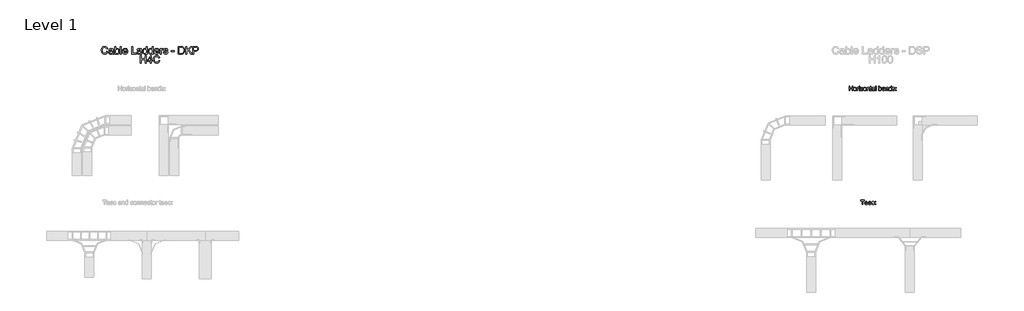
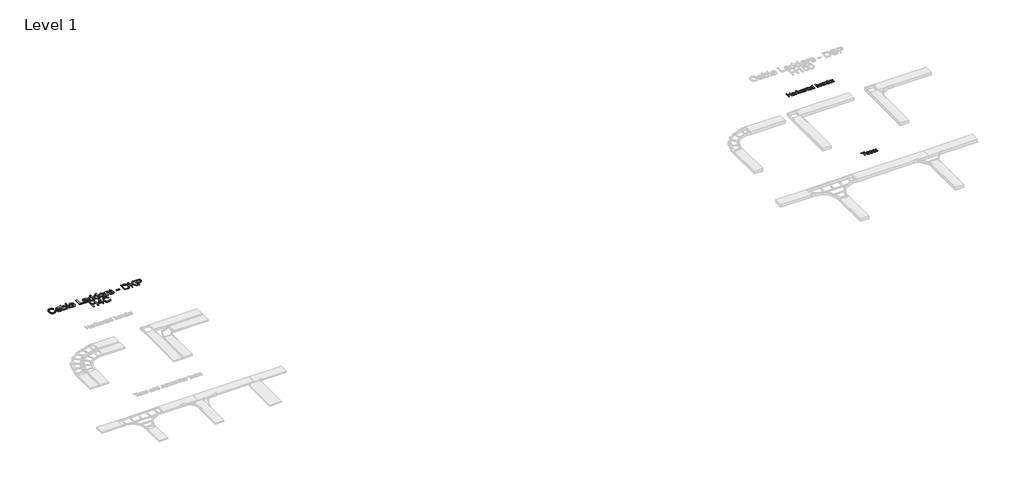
# One storey, part 85 of 106: 3 proxies.
"""IFC4 building model written with IfcOpenShell, lengths in millimetres."""

from ifc_helpers import new_model, si_unit, origin, origin_with_axes, place, context, project, spatial, polyline, outline, extrude, element, save

model = new_model("IFC4")

# Units and contexts
model_context = context("Model", 3, world=origin())
ifc_project = project(units=[si_unit("LENGTHUNIT", "METRE", prefix="MILLI")], contexts=[model_context])

# Site, building, storey
site = spatial("IfcSite", under=ifc_project)
building = spatial("IfcBuilding", under=site)
storey = spatial("IfcBuildingStorey", under=building, Name="Level 1", Elevation=0.0)

# Proxies
placement = place(None, origin())
element("IfcBuildingElementProxy", 1, Name="150mm Arial 2", ObjectType="150mm Arial 2", at=placement, inside=storey, context=model_context, shape_type="SweptSolid", body=[
    extrude(outline(polyline([(79665.8833156, 70274.2713912), (79665.8833156, 70424.9558564), (79684.7188737, 70424.9558564), (79684.7188737, 70363.7402924), (79764.7699959, 70363.7402924), (79764.7699959, 70424.9558564), (79783.605554, 70424.9558564), (79783.605554, 70274.2713912), (79764.7699959, 70274.2713912), (79764.7699959, 70344.9047343), (79684.7188737, 70344.9047343), (79684.7188737, 70274.2713912), (79665.8833156, 70274.2713912)])), origin_with_axes(), (0.0, 0.0, 1.0), 15.0),
    extrude(outline(polyline([(79809.5044465, 70329.6008433), (79813.5787396, 70356.281485), (79825.8016189, 70375.0342697), (79840.9031748, 70384.2221225), (79858.9845748, 70387.2847401), (79878.7720277, 70383.5553364), (79894.5771579, 70372.3671252), (79904.9376346, 70354.6030234), (79908.3911268, 70331.1459476), (79906.8644165, 70312.1172514), (79902.2842857, 70297.6318979), (79894.7840915, 70286.7839775), (79884.4971912, 70278.667581), (79872.2789104, 70273.6046051), (79858.9845748, 70271.9169464), (79838.9579987, 70275.6325546), (79823.1712626, 70286.779379), (79812.9211505, 70304.9159614), (79809.5044465, 70329.6008433)]), holes=[polyline([(79828.3400046, 70329.6376315), (79830.5197055, 70312.5908995), (79837.0588079, 70300.4461951), (79846.8996513, 70293.1759272), (79858.9845748, 70290.7525046), (79871.0143161, 70293.1897228), (79880.8367654, 70300.5013774), (79887.3758678, 70312.8070302), (79889.5555686, 70330.2262427), (79887.3620722, 70346.7763339), (79880.7815831, 70358.7554914), (79870.9453382, 70366.0257593), (79858.9845748, 70368.449182), (79846.8996513, 70366.0349564), (79837.0588079, 70358.7922796), (79830.5197055, 70346.6751664), (79828.3400046, 70329.6376315)])]), origin_with_axes(), (0.0, 0.0, 1.0), 15.0),
    extrude(outline(polyline([(79929.5811297, 70274.2713912), (79929.5811297, 70384.9302953), (79946.0622431, 70384.9302953), (79946.0622431, 70368.5595466), (79957.7608906, 70383.6427084), (79969.5331144, 70387.2847401), (79988.4422489, 70381.4722046), (79982.1514668, 70364.586421), (79968.907715, 70368.449182), (79958.2575312, 70364.7335738), (79951.4701084, 70354.4328779), (79948.4166879, 70332.4335346), (79948.4166879, 70274.2713912), (79929.5811297, 70274.2713912)])), origin_with_axes(), (0.0, 0.0, 1.0), 15.0),
    extrude(outline(polyline([(80000.2144728, 70406.1202983), (80000.2144728, 70424.9558564), (80019.0500309, 70424.9558564), (80019.0500309, 70406.1202983), (80000.2144728, 70406.1202983)])), origin_with_axes(), (0.0, 0.0, 1.0), 15.0),
    extrude(outline(polyline([(80000.2144728, 70274.2713912), (80000.2144728, 70384.9302953), (80019.0500309, 70384.9302953), (80019.0500309, 70274.2713912), (80000.2144728, 70274.2713912)])), origin_with_axes(), (0.0, 0.0, 1.0), 15.0),
    extrude(outline(polyline([(80035.5311443, 70274.2713912), (80035.5311443, 70292.0033034), (80100.5358929, 70366.0947372), (80081.2956645, 70366.0947372), (80040.2400339, 70366.0947372), (80040.2400339, 70384.9302953), (80127.3544903, 70384.9302953), (80127.3544903, 70368.9274285), (80069.7073817, 70303.186916), (80060.8782138, 70293.1069493), (80082.6568279, 70293.1069493), (80129.7089351, 70293.1069493), (80129.7089351, 70274.2713912), (80035.5311443, 70274.2713912)])), origin_with_axes(), (0.0, 0.0, 1.0), 15.0),
    extrude(outline(polyline([(80143.8356037, 70329.6008433), (80147.9098968, 70356.281485), (80160.1327761, 70375.0342697), (80175.234332, 70384.2221225), (80193.3157321, 70387.2847401), (80213.1031849, 70383.5553364), (80228.9083151, 70372.3671252), (80239.2687918, 70354.6030234), (80242.722284, 70331.1459476), (80241.1955737, 70312.1172514), (80236.6154429, 70297.6318979), (80229.1152487, 70286.7839775), (80218.8283484, 70278.667581), (80206.6100677, 70273.6046051), (80193.3157321, 70271.9169464), (80173.2891559, 70275.6325546), (80157.5024198, 70286.779379), (80147.2523077, 70304.9159614), (80143.8356037, 70329.6008433)]), holes=[polyline([(80162.6711619, 70329.6376315), (80164.8508627, 70312.5908995), (80171.3899651, 70300.4461951), (80181.2308085, 70293.1759272), (80193.3157321, 70290.7525046), (80205.3454733, 70293.1897228), (80215.1679226, 70300.5013774), (80221.707025, 70312.8070302), (80223.8867259, 70330.2262427), (80221.6932295, 70346.7763339), (80215.1127403, 70358.7554914), (80205.2764954, 70366.0257593), (80193.3157321, 70368.449182), (80181.2308085, 70366.0349564), (80171.3899651, 70358.7922796), (80164.8508627, 70346.6751664), (80162.6711619, 70329.6376315)])]), origin_with_axes(), (0.0, 0.0, 1.0), 15.0),
    extrude(outline(polyline([(80263.9122869, 70274.2713912), (80263.9122869, 70384.9302953), (80282.7478451, 70384.9302953), (80282.7478451, 70369.4792515), (80297.1504252, 70382.833368), (80316.8137178, 70387.2847401), (80334.6008123, 70383.6978907), (80346.7409182, 70374.2801116), (80352.3879068, 70360.4293545), (80353.3811882, 70342.2191957), (80353.3811882, 70274.2713912), (80334.54563, 70274.2713912), (80334.54563, 70339.6808099), (80332.3751262, 70356.3458643), (80324.7047866, 70365.1566381), (80311.7737345, 70368.449182), (80300.7418732, 70366.6005749), (80291.3378897, 70361.0547538), (80284.8953562, 70350.3401907), (80282.7478451, 70332.9853576), (80282.7478451, 70274.2713912), (80263.9122869, 70274.2713912)])), origin_with_axes(), (0.0, 0.0, 1.0), 15.0),
    extrude(outline(polyline([(80419.3056417, 70289.9799524), (80421.6600865, 70273.7195682), (80407.5702061, 70271.9169464), (80391.7880685, 70275.0439434), (80383.9153938, 70283.2477119), (80381.6345254, 70304.6216558), (80381.6345254, 70366.0947372), (80367.5078568, 70366.0947372), (80367.5078568, 70384.9302953), (80381.6345254, 70384.9302953), (80381.6345254, 70411.8224692), (80400.4700835, 70422.8957172), (80400.4700835, 70384.9302953), (80419.3056417, 70384.9302953), (80419.3056417, 70366.0947372), (80400.4700835, 70366.0947372), (80400.4700835, 70305.1734788), (80401.4633649, 70295.4613941), (80404.6823324, 70292.0216975), (80411.1018732, 70290.7525046), (80419.3056417, 70289.9799524)])), origin_with_axes(), (0.0, 0.0, 1.0), 15.0),
    extrude(outline(polyline([(80508.7745429, 70288.3980598), (80490.5092019, 70275.6325546), (80470.3308744, 70271.9169464), (80454.5901236, 70274.1518295), (80442.9788481, 70280.8564789), (80435.8189448, 70291.0376131), (80433.4323103, 70303.7019508), (80437.0375539, 70318.6011716), (80446.5105152, 70329.4169023), (80459.6990848, 70335.5973198), (80475.9962572, 70338.4300111), (80508.6641783, 70344.9047343), (80508.7745429, 70349.098589), (80507.4777589, 70357.5046926), (80503.5874068, 70363.0045284), (80494.8869976, 70367.0880186), (80482.7652859, 70368.449182), (80463.7089985, 70364.8255443), (80454.6223132, 70351.9680686), (80435.7867551, 70354.3225133), (80443.9353413, 70372.7166131), (80460.3428783, 70383.4955556), (80485.193307, 70387.2847401), (80508.0203848, 70383.9370139), (80520.9146488, 70375.5309104), (80526.6903961, 70362.747011), (80527.6101011, 70346.2658976), (80527.6101011, 70322.8318145), (80528.5665943, 70290.1087111), (80532.3189906, 70274.2713912), (80513.4834325, 70274.2713912), (80508.7745429, 70288.3980598)]), holes=[polyline([(80508.7745429, 70326.0691761), (80478.3874901, 70320.2934288), (80462.1822882, 70317.2400082), (80454.8430424, 70312.2736013), (80452.2678685, 70305.026326), (80457.8780689, 70294.8359947), (80474.3407882, 70290.7525046), (80493.3970755, 70295.259059), (80505.6843342, 70306.1667602), (80508.6641783, 70320.7348872), (80508.7745429, 70326.0691761)])]), origin_with_axes(), (0.0, 0.0, 1.0), 15.0),
    extrude(outline(polyline([(80553.5089935, 70274.2713912), (80553.5089935, 70424.9558564), (80572.3445517, 70424.9558564), (80572.3445517, 70274.2713912), (80553.5089935, 70274.2713912)])), origin_with_axes(), (0.0, 0.0, 1.0), 15.0),
    extrude(outline(polyline([(80678.2945663, 70274.2713912), (80659.4590082, 70274.2713912), (80659.4590082, 70424.9558564), (80678.2945663, 70424.9558564), (80678.2945663, 70369.0745813), (80691.4831358, 70382.7322004), (80707.8722787, 70387.2847401), (80726.7446251, 70383.1828559), (80741.3863285, 70371.6497553), (80750.3810433, 70353.715508), (80753.6367989, 70331.2563122), (80750.2660801, 70306.1115779), (80740.1539238, 70287.4047784), (80725.3144838, 70275.7889044), (80707.7619141, 70271.9169464), (80691.0140863, 70276.9109445), (80678.2945663, 70291.8929388), (80678.2945663, 70274.2713912)]), holes=[polyline([(80678.2945663, 70330.3733955), (80679.5821533, 70314.6648343), (80683.4449142, 70304.0330446), (80693.3133488, 70294.0726396), (80706.1432333, 70290.7525046), (80717.0141463, 70293.1989198), (80726.3031667, 70300.5381656), (80732.6767222, 70312.7242567), (80734.8012408, 70329.7112079), (80732.7640942, 70346.9464793), (80726.6526546, 70358.9946147), (80717.6533413, 70366.0855401), (80706.9525737, 70368.449182), (80696.0816608, 70366.0027667), (80686.7926404, 70358.6635209), (80680.4190848, 70346.698159), (80678.2945663, 70330.3733955)])]), origin_with_axes(), (0.0, 0.0, 1.0), 15.0),
    extrude(outline(polyline([(80852.30275, 70307.233618), (80870.7704262, 70304.8791732), (80864.1163606, 70290.9640367), (80853.4983665, 70280.5621733), (80839.1555672, 70274.0782531), (80821.327086, 70271.9169464), (80799.2265752, 70275.6463501), (80782.2212299, 70286.8345613), (80771.3779081, 70304.755013), (80767.7634675, 70328.6811383), (80771.4146963, 70353.4120054), (80782.3683827, 70371.9072727), (80799.1438017, 70383.4403733), (80820.2602282, 70387.2847401), (80840.7190657, 70383.4495703), (80857.0668219, 70371.9440609), (80867.7859835, 70353.4855818), (80871.3590374, 70328.7915029), (80871.2486728, 70323.7147313), (80786.5990257, 70323.7147313), (80789.8593799, 70309.6156539), (80797.4331504, 70299.2505787), (80808.3638442, 70292.8770231), (80821.694968, 70290.7525046), (80840.1626442, 70294.6888419), (80852.30275, 70307.233618)]), holes=[polyline([(80786.5990257, 70342.5502895), (80852.5234792, 70342.5502895), (80849.9758964, 70352.5014975), (80844.9818983, 70359.6200141), (80834.0006208, 70366.24189), (80820.1866518, 70368.449182), (80807.4901245, 70366.6879469), (80796.991692, 70361.4042417), (80789.693833, 70353.1682836), (80786.5990257, 70342.5502895)])]), origin_with_axes(), (0.0, 0.0, 1.0), 15.0),
    extrude(outline(polyline([(80890.1945955, 70274.2713912), (80890.1945955, 70384.9302953), (80909.0301537, 70384.9302953), (80909.0301537, 70369.4792515), (80923.4327338, 70382.833368), (80943.0960264, 70387.2847401), (80960.8831209, 70383.6978907), (80973.0232267, 70374.2801116), (80978.6702154, 70360.4293545), (80979.6634968, 70342.2191957), (80979.6634968, 70274.2713912), (80960.8279386, 70274.2713912), (80960.8279386, 70339.6808099), (80958.6574348, 70356.3458643), (80950.9870952, 70365.1566381), (80938.0560431, 70368.449182), (80927.0241818, 70366.6005749), (80917.6201983, 70361.0547538), (80911.1776648, 70350.3401907), (80909.0301537, 70332.9853576), (80909.0301537, 70274.2713912), (80890.1945955, 70274.2713912)])), origin_with_axes(), (0.0, 0.0, 1.0), 15.0),
    extrude(outline(polyline([(81073.8412875, 70274.2713912), (81073.8412875, 70292.0400916), (81061.3792849, 70276.9477327), (81044.1532105, 70271.9169464), (81031.9763165, 70273.7379623), (81020.829492, 70279.2010099), (81011.3933188, 70287.9244117), (81004.3483786, 70299.5264902), (80999.9613858, 70313.5381956), (80998.4990549, 70329.4904787), (81003.8885261, 70359.4728613), (81010.6207666, 70371.3646468), (81020.0385457, 70380.1110412), (81031.429092, 70385.4913154), (81044.0796341, 70387.2847401), (81061.4436643, 70382.1527863), (81073.8412875, 70368.8170639), (81073.8412875, 70424.9558564), (81092.6768457, 70424.9558564), (81092.6768457, 70274.2713912), (81073.8412875, 70274.2713912)]), holes=[polyline([(81017.3346131, 70329.5640551), (81019.4591316, 70312.5265202), (81025.8326871, 70300.4094069), (81035.0941164, 70293.1667302), (81045.8822559, 70290.7525046), (81056.6657969, 70293.0563656), (81065.6927013, 70299.9679485), (81071.804141, 70311.6160122), (81073.8412875, 70328.1293153), (81071.7673528, 70346.1831242), (81065.5455485, 70358.7003091), (81056.2887178, 70366.0119637), (81045.1097037, 70368.449182), (81034.2111996, 70366.1085328), (81025.2808642, 70359.0865852), (81019.3211758, 70347.0246543), (81017.3346131, 70329.5640551)])]), origin_with_axes(), (0.0, 0.0, 1.0), 15.0),
    extrude(outline(polyline([(81113.8668486, 70307.233618), (81132.7024067, 70309.5880627), (81135.6730539, 70301.531447), (81141.42121, 70295.6085469), (81161.3972024, 70290.7525046), (81180.6006425, 70295.2038767), (81186.8546364, 70305.6517254), (81185.2819409, 70310.4525854), (81180.5638543, 70314.1130113), (81161.1764732, 70319.4840884), (81132.8127713, 70328.6995324), (81120.4335422, 70339.4600807), (81116.2212934, 70354.6536071), (81119.6058077, 70368.6883052), (81128.8396458, 70379.4120654), (81140.8142047, 70384.9854776), (81157.0194066, 70387.2847401), (81179.9384549, 70383.5875261), (81194.5065819, 70373.5811358), (81200.9813051, 70356.6769581), (81182.1457469, 70354.3225133), (81175.0640185, 70364.7151797), (81158.4909346, 70368.449182), (81140.4647168, 70364.8807266), (81135.0568515, 70356.5665935), (81137.3009317, 70351.0851518), (81144.3274778, 70346.9280852), (81160.5510738, 70342.9181715), (81188.1974057, 70334.0522154), (81201.0364873, 70324.0090369), (81205.6901946, 70307.6382881), (81200.227147, 70289.6120704), (81184.4634035, 70276.5338655), (81161.139685, 70271.9169464), (81142.147777, 70274.1426325), (81128.2878228, 70280.8196907), (81119.0355906, 70291.8745447), (81113.8668486, 70307.233618)])), origin_with_axes(), (0.0, 0.0, 1.0), 15.0),
    extrude(outline(polyline([(81231.589087, 70366.0947372), (81231.589087, 70384.9302953), (81250.4246452, 70384.9302953), (81250.4246452, 70366.0947372), (81231.589087, 70366.0947372)])), origin_with_axes(), (0.0, 0.0, 1.0), 15.0),
    extrude(outline(polyline([(81231.589087, 70274.2713912), (81231.589087, 70293.1069493), (81250.4246452, 70293.1069493), (81250.4246452, 70274.2713912), (81231.589087, 70274.2713912)])), origin_with_axes(), (0.0, 0.0, 1.0), 15.0),
])
element("IfcBuildingElementProxy", 2, Name="150mm Arial 2", ObjectType="150mm Arial 2", at=placement, inside=storey, context=model_context, shape_type="SweptSolid", body=[
    extrude(outline(polyline([(80111.5611219, 66447.8476348), (80111.5611219, 66579.6965419), (80062.1177817, 66579.6965419), (80062.1177817, 66598.5321), (80179.8400202, 66598.5321), (80179.8400202, 66579.6965419), (80130.39668, 66579.6965419), (80130.39668, 66447.8476348), (80111.5611219, 66447.8476348)])), origin_with_axes(), (0.0, 0.0, 1.0), 15.0),
    extrude(outline(polyline([(80276.1515265, 66480.8098615), (80294.6192027, 66478.4554168), (80287.9651371, 66464.5402803), (80277.347143, 66454.1384169), (80263.0043437, 66447.6544967), (80245.1758625, 66445.49319), (80223.0753517, 66449.2225937), (80206.0700064, 66460.4108049), (80195.2266846, 66478.3312566), (80191.612244, 66502.2573819), (80195.2634728, 66526.988249), (80206.2171592, 66545.4835163), (80222.9925782, 66557.0166168), (80244.1090047, 66560.8609837), (80264.5678422, 66557.0258139), (80280.9155984, 66545.5203045), (80291.63476, 66527.0618254), (80295.2078139, 66502.3677465), (80295.0974493, 66497.2909749), (80210.4478022, 66497.2909749), (80213.7081564, 66483.1918975), (80221.2819269, 66472.8268223), (80232.2126207, 66466.4532667), (80245.5437445, 66464.3287482), (80264.0114207, 66468.2650855), (80276.1515265, 66480.8098615)]), holes=[polyline([(80210.4478022, 66516.1265331), (80276.3722557, 66516.1265331), (80273.8246729, 66526.0777411), (80268.8306748, 66533.1962577), (80257.8493973, 66539.8181336), (80244.0354283, 66542.0254255), (80231.338901, 66540.2641905), (80220.8404686, 66534.9804853), (80213.5426095, 66526.7445272), (80210.4478022, 66516.1265331)])]), origin_with_axes(), (0.0, 0.0, 1.0), 15.0),
    extrude(outline(polyline([(80391.5193202, 66480.8098615), (80409.9869964, 66478.4554168), (80403.3329308, 66464.5402803), (80392.7149367, 66454.1384169), (80378.3721374, 66447.6544967), (80360.5436562, 66445.49319), (80338.4431454, 66449.2225937), (80321.4378001, 66460.4108049), (80310.5944783, 66478.3312566), (80306.9800377, 66502.2573819), (80310.6312665, 66526.988249), (80321.5849529, 66545.4835163), (80338.3603719, 66557.0166168), (80359.4767984, 66560.8609837), (80379.9356359, 66557.0258139), (80396.2833921, 66545.5203045), (80407.0025537, 66527.0618254), (80410.5756076, 66502.3677465), (80410.465243, 66497.2909749), (80325.8155959, 66497.2909749), (80329.0759501, 66483.1918975), (80336.6497206, 66472.8268223), (80347.5804144, 66466.4532667), (80360.9115382, 66464.3287482), (80379.3792144, 66468.2650855), (80391.5193202, 66480.8098615)]), holes=[polyline([(80325.8155959, 66516.1265331), (80391.7400494, 66516.1265331), (80389.1924666, 66526.0777411), (80384.1984685, 66533.1962577), (80373.217191, 66539.8181336), (80359.403222, 66542.0254255), (80346.7066947, 66540.2641905), (80336.2082622, 66534.9804853), (80328.9104032, 66526.7445272), (80325.8155959, 66516.1265331)])]), origin_with_axes(), (0.0, 0.0, 1.0), 15.0),
    extrude(outline(polyline([(80422.3478314, 66480.8098615), (80441.1833896, 66483.1643063), (80444.1540367, 66475.1076906), (80449.9021929, 66469.1847905), (80469.8781852, 66464.3287482), (80489.0816253, 66468.7801203), (80495.3356193, 66479.227969), (80493.7629237, 66484.028829), (80489.0448371, 66487.6892549), (80469.657456, 66493.060332), (80441.2937542, 66502.275776), (80428.914525, 66513.0363243), (80424.7022762, 66528.2298507), (80428.0867905, 66542.2645488), (80437.3206286, 66552.988309), (80449.2951876, 66558.5617212), (80465.5003894, 66560.8609837), (80488.4194377, 66557.1637696), (80502.9875648, 66547.1573794), (80509.4622879, 66530.2532017), (80490.6267297, 66527.8987569), (80483.5450013, 66538.2914233), (80466.9719174, 66542.0254255), (80448.9456997, 66538.4569702), (80443.5378343, 66530.1428371), (80445.7819145, 66524.6613954), (80452.8084606, 66520.5043288), (80469.0320566, 66516.4944151), (80496.6783885, 66507.628459), (80509.5174702, 66497.5852805), (80514.1711774, 66481.2145317), (80508.7081298, 66463.188314), (80492.9443863, 66450.1101091), (80469.6206678, 66445.49319), (80450.6287598, 66447.7188761), (80436.7688056, 66454.3959343), (80427.5165734, 66465.4507882), (80422.3478314, 66480.8098615)])), origin_with_axes(), (0.0, 0.0, 1.0), 15.0),
    extrude(outline(polyline([(80540.0700699, 66539.6709808), (80540.0700699, 66558.5065389), (80558.905628, 66558.5065389), (80558.905628, 66539.6709808), (80540.0700699, 66539.6709808)])), origin_with_axes(), (0.0, 0.0, 1.0), 15.0),
    extrude(outline(polyline([(80540.0700699, 66447.8476348), (80540.0700699, 66466.6831929), (80558.905628, 66466.6831929), (80558.905628, 66447.8476348), (80540.0700699, 66447.8476348)])), origin_with_axes(), (0.0, 0.0, 1.0), 15.0),
])
element("IfcBuildingElementProxy", 3, Name="250mm Arial 3", ObjectType="250mm Arial 3", at=placement, inside=storey, context=model_context, shape_type="SweptSolid", body=[
    extrude(outline(polyline([(54787.288869, 71592.4106539), (54818.6814659, 71584.31725), (54804.1961124, 71547.7359841), (54781.4640708, 71521.01089), (54751.6043155, 71504.6631338), (54715.735821, 71499.2138818), (54679.3231676, 71503.3372258), (54650.40611, 71515.7072579), (54628.2412198, 71535.8947824), (54612.0850688, 71563.4706036), (54602.2212328, 71595.8902044), (54598.9332875, 71630.6090677), (54602.6504285, 71667.2286547), (54613.8018515, 71698.8511778), (54631.8050766, 71724.472626), (54656.0776241, 71743.0889877), (54684.8643902, 71754.4243517), (54716.4102713, 71758.2028064), (54750.8302305, 71753.3130415), (54779.2874356, 71738.643747), (54800.8928386, 71715.0992993), (54814.7573913, 71683.584075), (54783.3647944, 71676.1038078), (54772.4816187, 71698.9967978), (54757.6130547, 71714.7007605), (54738.5751615, 71723.7828472), (54715.183998, 71726.8102095), (54688.2213134, 71723.4532863), (54666.0717516, 71713.3825166), (54649.264143, 71697.6555613), (54638.3273178, 71677.3300811), (54632.3262428, 71654.3527848), (54630.3258844, 71630.6703814), (54632.6941248, 71601.6690174), (54639.7988458, 71576.5917281), (54651.9082948, 71556.3965394), (54669.2907191, 71542.0414774), (54690.1297013, 71533.4652284), (54712.608824, 71530.6064787), (54738.8127519, 71534.4998965), (54760.6480812, 71546.1801498), (54777.1337931, 71565.5246114), (54787.288869, 71592.4106539)])), origin_with_axes(), (0.0, 0.0, 1.0), 15.0),
    extrude(outline(polyline([(54975.6444505, 71526.6824041), (54960.645595, 71513.8218627), (54945.2022154, 71505.406562), (54928.9617582, 71500.7620518), (54911.5716697, 71499.2138818), (54885.3370849, 71502.938687), (54865.9849592, 71514.1131026), (54854.0517869, 71531.0816596), (54850.0740629, 71552.1888891), (54851.5762477, 71565.2027147), (54856.0828021, 71577.0209238), (54871.8710711, 71595.0471415), (54893.8520203, 71605.3478374), (54921.0139743, 71610.0689897), (54975.4605096, 71620.8601949), (54975.6444505, 71627.8499528), (54973.4831438, 71641.8601254), (54966.9992237, 71651.0265185), (54952.4985417, 71657.8323354), (54932.2956888, 71660.100941), (54913.5950207, 71658.591092), (54900.5352099, 71654.0615449), (54891.6293999, 71645.6845653), (54885.3907344, 71632.6324187), (54853.9981375, 71636.5564933), (54859.4473895, 71653.7243198), (54867.5791145, 71667.2133262), (54879.1520689, 71677.5293505), (54894.9250094, 71685.1782303), (54914.2158216, 71689.914711), (54936.3423907, 71691.4935379), (54957.5645833, 71690.098652), (54974.3875204, 71685.9139943), (54987.071785, 71679.6216794), (54995.8779603, 71671.9038217), (55005.5042058, 71650.5973228), (55007.0370475, 71623.1288005), (55007.0370475, 71584.0719953), (55008.6312028, 71529.5334895), (55014.8851967, 71503.1379564), (54983.4925998, 71503.1379564), (54975.6444505, 71526.6824041)]), holes=[polyline([(54975.6444505, 71589.4675979), (54924.9993625, 71579.8413524), (54897.9906927, 71574.7523181), (54885.7586164, 71566.4749732), (54881.4666598, 71554.3961811), (54883.8042433, 71545.0611754), (54890.8169938, 71537.4122956), (54902.3516272, 71532.3079329), (54918.2548593, 71530.6064787), (54935.1161174, 71532.4842097), (54950.0153382, 71538.1174028), (54962.0941304, 71546.4177403), (54970.4941026, 71556.2969047), (54974.2189078, 71566.4749732), (54975.4605096, 71580.5771164), (54975.6444505, 71589.4675979)])]), origin_with_axes(), (0.0, 0.0, 1.0), 15.0),
    extrude(outline(polyline([(55081.5944652, 71503.1379564), (55050.2018682, 71503.1379564), (55050.2018682, 71754.2787318), (55081.5944652, 71754.2787318), (55081.5944652, 71661.1432733), (55091.9181536, 71674.4215141), (55103.5754144, 71683.9059718), (55116.5662473, 71689.5966464), (55130.8906525, 71691.4935379), (55147.0621319, 71689.7844195), (55162.3445631, 71684.6570642), (55175.8642264, 71676.4333687), (55186.7474021, 71665.4352299), (55201.7385934, 71635.5448178), (55207.1648528, 71598.1128248), (55201.5469882, 71556.2049342), (55194.5246574, 71539.2746982), (55184.6933943, 71525.0269351), (55172.8924297, 71513.7337243), (55159.9609943, 71505.6671451), (55145.8990883, 71500.8271976), (55130.7067115, 71499.2138818), (55115.9109575, 71501.2947143), (55102.7936651, 71507.5372119), (55091.3548343, 71517.9413746), (55081.5944652, 71532.5072023), (55081.5944652, 71503.1379564)]), holes=[polyline([(55081.5944652, 71596.6412968), (55083.7404435, 71570.4603615), (55090.1783784, 71552.7407121), (55106.6257692, 71536.140037), (55128.0089102, 71530.6064787), (55146.1270985, 71534.6838375), (55161.6087991, 71546.9159138), (55172.2313917, 71567.2260656), (55175.7722559, 71595.5376509), (55172.3770117, 71624.2631033), (55162.1912789, 71644.3433289), (55147.1924234, 71656.161538), (55129.3578109, 71660.100941), (55111.2396226, 71656.0235822), (55095.757922, 71643.7915059), (55085.1353294, 71623.8492361), (55081.5944652, 71596.6412968)])]), origin_with_axes(), (0.0, 0.0, 1.0), 15.0),
    extrude(outline(polyline([(55242.4815244, 71503.1379564), (55242.4815244, 71754.2787318), (55273.8741213, 71754.2787318), (55273.8741213, 71503.1379564), (55242.4815244, 71503.1379564)])), origin_with_axes(), (0.0, 0.0, 1.0), 15.0),
    extrude(outline(polyline([(55450.089597, 71558.075001), (55480.8690573, 71554.1509264), (55469.7789479, 71530.9590323), (55452.0822911, 71513.6225933), (55428.1776257, 71502.8160597), (55398.4634903, 71499.2138818), (55378.9849051, 71500.7678), (55361.6293056, 71505.4295547), (55346.3966917, 71513.1991458), (55333.2870635, 71524.0765733), (55322.7449451, 71537.759101), (55315.2148605, 71553.9439928), (55310.6968098, 71572.6312485), (55309.1907928, 71593.8208682), (55310.7121382, 71615.7290074), (55315.2761742, 71635.0389801), (55322.8829009, 71651.7507861), (55333.5323182, 71665.8644256), (55346.6074574, 71677.0771622), (55361.4913498, 71685.0862598), (55378.1839954, 71689.8917184), (55396.685394, 71691.4935379), (55414.5909005, 71689.8955505), (55430.7834565, 71685.1015883), (55445.2630619, 71677.1116512), (55458.0297167, 71665.9257393), (55468.4511239, 71651.8427566), (55475.8949861, 71635.1616074), (55480.3613035, 71615.8822916), (55481.8500759, 71594.0048092), (55481.6661349, 71585.5435233), (55340.5833898, 71585.5435233), (55346.0173134, 71562.0450609), (55358.6402644, 71544.7699355), (55376.8580873, 71534.1473429), (55399.076627, 71530.6064787), (55415.7846009, 71532.2466193), (55429.8560873, 71537.1670409), (55441.2910859, 71545.6743121), (55450.089597, 71558.075001)]), holes=[polyline([(55340.5833898, 71616.9361202), (55450.457479, 71616.9361202), (55446.2115076, 71633.5214669), (55437.8881775, 71645.3856612), (55419.5860482, 71656.4221211), (55396.5627667, 71660.100941), (55375.4018878, 71657.1655493), (55357.9045004, 71648.359374), (55345.7414019, 71634.632777), (55340.5833898, 71616.9361202)])]), origin_with_axes(), (0.0, 0.0, 1.0), 15.0),
    extrude(outline(polyline([(55615.2686128, 71503.1379564), (55615.2686128, 71754.2787318), (55646.6612098, 71754.2787318), (55646.6612098, 71534.5305533), (55772.2315974, 71534.5305533), (55772.2315974, 71503.1379564), (55615.2686128, 71503.1379564)])), origin_with_axes(), (0.0, 0.0, 1.0), 15.0),
    extrude(outline(polyline([(55921.3464328, 71526.6824041), (55906.3475773, 71513.8218627), (55890.9041977, 71505.406562), (55874.6637405, 71500.7620518), (55857.273652, 71499.2138818), (55831.0390672, 71502.938687), (55811.6869414, 71514.1131026), (55799.7537692, 71531.0816596), (55795.7760451, 71552.1888891), (55797.2782299, 71565.2027147), (55801.7847844, 71577.0209238), (55817.5730533, 71595.0471415), (55839.5540026, 71605.3478374), (55866.7159565, 71610.0689897), (55921.1624918, 71620.8601949), (55921.3464328, 71627.8499528), (55919.1851261, 71641.8601254), (55912.7012059, 71651.0265185), (55898.200524, 71657.8323354), (55877.9976711, 71660.100941), (55859.297003, 71658.591092), (55846.2371921, 71654.0615449), (55837.3313822, 71645.6845653), (55831.0927167, 71632.6324187), (55799.7001197, 71636.5564933), (55805.1493718, 71653.7243198), (55813.2810967, 71667.2133262), (55824.8540512, 71677.5293505), (55840.6269917, 71685.1782303), (55859.9178038, 71689.914711), (55882.044373, 71691.4935379), (55903.2665656, 71690.098652), (55920.0895027, 71685.9139943), (55932.7737673, 71679.6216794), (55941.5799426, 71671.9038217), (55951.2061881, 71650.5973228), (55952.7390297, 71623.1288005), (55952.7390297, 71584.0719953), (55954.3331851, 71529.5334895), (55960.587179, 71503.1379564), (55929.194582, 71503.1379564), (55921.3464328, 71526.6824041)]), holes=[polyline([(55921.3464328, 71589.4675979), (55870.7013448, 71579.8413524), (55843.692675, 71574.7523181), (55831.4605987, 71566.4749732), (55827.1686421, 71554.3961811), (55829.5062256, 71545.0611754), (55836.5189761, 71537.4122956), (55848.0536095, 71532.3079329), (55863.9568416, 71530.6064787), (55880.8180997, 71532.4842097), (55895.7173205, 71538.1174028), (55907.7961127, 71546.4177403), (55916.1960849, 71556.2969047), (55919.9208901, 71566.4749732), (55921.1624918, 71580.5771164), (55921.3464328, 71589.4675979)])]), origin_with_axes(), (0.0, 0.0, 1.0), 15.0),
    extrude(outline(polyline([(56109.7020143, 71503.1379564), (56109.7020143, 71532.752457), (56100.3095272, 71518.0793303), (56088.93201, 71507.5985256), (56075.569463, 71501.3100427), (56060.221886, 71499.2138818), (56039.9270626, 71502.2489082), (56021.3490218, 71511.3539876), (56005.6220665, 71525.8929906), (55993.8804995, 71545.229788), (55986.5688449, 71568.5826305), (55984.1316267, 71595.1697689), (55986.3772397, 71621.4273463), (55993.1140787, 71645.1404065), (56004.3344796, 71664.960049), (56020.030778, 71679.5373731), (56039.0150218, 71688.5044967), (56060.0992587, 71691.4935379), (56075.458332, 71689.3552238), (56089.039309, 71682.9402815), (56100.5509497, 71673.1071024), (56109.7020143, 71660.7140777), (56109.7020143, 71754.2787318), (56141.0946113, 71754.2787318), (56141.0946113, 71503.1379564), (56109.7020143, 71503.1379564)]), holes=[polyline([(56015.5242236, 71595.2923962), (56019.0650878, 71566.8965047), (56029.6876804, 71546.701316), (56045.1233958, 71534.630188), (56063.1036283, 71530.6064787), (56081.0761966, 71534.446247), (56096.1210374, 71545.965552), (56106.3067701, 71565.3789915), (56109.7020143, 71592.9011632), (56106.2454564, 71622.9908447), (56095.8757827, 71643.8528196), (56080.4477315, 71656.0389106), (56061.8160413, 71660.100941), (56043.6518678, 71656.199859), (56028.7679754, 71644.496613), (56018.8351615, 71624.3933948), (56015.5242236, 71595.2923962)])]), origin_with_axes(), (0.0, 0.0, 1.0), 15.0),
    extrude(outline(polyline([(56301.9816705, 71503.1379564), (56301.9816705, 71532.752457), (56292.5891833, 71518.0793303), (56281.2116662, 71507.5985256), (56267.8491191, 71501.3100427), (56252.5015421, 71499.2138818), (56232.2067187, 71502.2489082), (56213.628678, 71511.3539876), (56197.9017227, 71525.8929906), (56186.1601557, 71545.229788), (56178.848501, 71568.5826305), (56176.4112828, 71595.1697689), (56178.6568958, 71621.4273463), (56185.3937349, 71645.1404065), (56196.6141357, 71664.960049), (56212.3104342, 71679.5373731), (56231.294678, 71688.5044967), (56252.3789148, 71691.4935379), (56267.7379881, 71689.3552238), (56281.3189651, 71682.9402815), (56292.8306059, 71673.1071024), (56301.9816705, 71660.7140777), (56301.9816705, 71754.2787318), (56333.3742674, 71754.2787318), (56333.3742674, 71503.1379564), (56301.9816705, 71503.1379564)]), holes=[polyline([(56207.8038797, 71595.2923962), (56211.3447439, 71566.8965047), (56221.9673365, 71546.701316), (56237.4030519, 71534.630188), (56255.3832844, 71530.6064787), (56273.3558527, 71534.446247), (56288.4006935, 71545.965552), (56298.5864262, 71565.3789915), (56301.9816705, 71592.9011632), (56298.5251126, 71622.9908447), (56288.1554388, 71643.8528196), (56272.7273877, 71656.0389106), (56254.0956975, 71660.100941), (56235.9315239, 71656.199859), (56221.0476316, 71644.496613), (56211.1148177, 71624.3933948), (56207.8038797, 71595.2923962)])]), origin_with_axes(), (0.0, 0.0, 1.0), 15.0),
    extrude(outline(polyline([(56509.5897431, 71558.075001), (56540.3692034, 71554.1509264), (56529.2790941, 71530.9590323), (56511.5824372, 71513.6225933), (56487.6777718, 71502.8160597), (56457.9636364, 71499.2138818), (56438.4850512, 71500.7678), (56421.1294517, 71505.4295547), (56405.8968378, 71513.1991458), (56392.7872096, 71524.0765733), (56382.2450912, 71537.759101), (56374.7150066, 71553.9439928), (56370.1969559, 71572.6312485), (56368.690939, 71593.8208682), (56370.2122843, 71615.7290074), (56374.7763203, 71635.0389801), (56382.383047, 71651.7507861), (56393.0324643, 71665.8644256), (56406.1076035, 71677.0771622), (56420.9914959, 71685.0862598), (56437.6841415, 71689.8917184), (56456.1855401, 71691.4935379), (56474.0910466, 71689.8955505), (56490.2836026, 71685.1015883), (56504.763208, 71677.1116512), (56517.5298628, 71665.9257393), (56527.95127, 71651.8427566), (56535.3951322, 71635.1616074), (56539.8614496, 71615.8822916), (56541.350222, 71594.0048092), (56541.166281, 71585.5435233), (56400.0835359, 71585.5435233), (56405.5174595, 71562.0450609), (56418.1404105, 71544.7699355), (56436.3582334, 71534.1473429), (56458.5767731, 71530.6064787), (56475.2847471, 71532.2466193), (56489.3562334, 71537.1670409), (56500.7912321, 71545.6743121), (56509.5897431, 71558.075001)]), holes=[polyline([(56400.0835359, 71616.9361202), (56509.9576251, 71616.9361202), (56505.7116537, 71633.5214669), (56497.3883236, 71645.3856612), (56479.0861943, 71656.4221211), (56456.0629128, 71660.100941), (56434.9020339, 71657.1655493), (56417.4046465, 71648.359374), (56405.241548, 71634.632777), (56400.0835359, 71616.9361202)])]), origin_with_axes(), (0.0, 0.0, 1.0), 15.0),
    extrude(outline(polyline([(56572.7428189, 71503.1379564), (56572.7428189, 71687.5694633), (56600.2113412, 71687.5694633), (56600.2113412, 71660.284882), (56610.3587529, 71676.1038078), (56619.709087, 71685.423485), (56639.3294601, 71691.4935379), (56654.9644449, 71689.0716481), (56670.8446843, 71681.8059787), (56660.3600475, 71653.6630061), (56638.2871278, 71660.100941), (56628.9138011, 71658.5527709), (56620.5368215, 71653.9082608), (56609.2244501, 71636.7404343), (56604.1354159, 71600.0748621), (56604.1354159, 71503.1379564), (56572.7428189, 71503.1379564)])), origin_with_axes(), (0.0, 0.0, 1.0), 15.0),
    extrude(outline(polyline([(56678.6928336, 71558.075001), (56710.0854305, 71561.9990756), (56715.036509, 71548.5713828), (56724.6167693, 71538.6998826), (56738.887525, 71532.6298297), (56757.9100898, 71530.6064787), (56776.7027284, 71532.4612171), (56789.9158234, 71538.0254323), (56797.7333158, 71546.0881793), (56800.3391466, 71555.4385134), (56797.7179874, 71563.4399468), (56789.8545098, 71569.5406565), (56757.5422079, 71578.4924517), (56710.2693715, 71593.851525), (56698.3055424, 71601.5693827), (56689.6373229, 71611.7857723), (56684.3720119, 71623.8492361), (56682.6169082, 71637.1083163), (56688.2577654, 71660.4994798), (56703.6474956, 71678.3724134), (56723.6050938, 71687.6614338), (56750.6137636, 71691.4935379), (56771.0465428, 71689.9530321), (56788.8121774, 71685.3315145), (56803.0982616, 71678.0811735), (56813.0923891, 71668.6541974), (56819.714265, 71656.3531432), (56823.8835943, 71640.4805679), (56792.4909974, 71636.5564933), (56788.5286017, 71646.4356577), (56780.6881167, 71653.8776039), (56768.8929002, 71658.5451067), (56753.0663102, 71660.100941), (56735.0400925, 71658.6140846), (56723.022614, 71654.1535154), (56716.2627823, 71647.7155805), (56714.0095051, 71640.2966269), (56717.7496387, 71631.1608907), (56729.4605489, 71624.2324465), (56756.4998755, 71617.5492569), (56802.5770954, 71602.7726634), (56814.7478581, 71595.7062634), (56823.9755648, 71586.0340326), (56829.7926989, 71573.7253142), (56831.7317435, 71558.7494513), (56829.4554737, 71543.2677507), (56822.6266642, 71528.7057551), (56811.505898, 71516.2054314), (56796.3537583, 71506.9087468), (56778.0516291, 71501.137598), (56757.4808942, 71499.2138818), (56725.8277142, 71502.9233586), (56702.7277906, 71514.0517889), (56687.3074036, 71532.4765455), (56678.6928336, 71558.075001)])), origin_with_axes(), (0.0, 0.0, 1.0), 15.0),
    extrude(outline(polyline([(56949.453982, 71577.6953741), (56949.453982, 71609.087971), (57047.5558474, 71609.087971), (57047.5558474, 71577.6953741), (56949.453982, 71577.6953741)])), origin_with_axes(), (0.0, 0.0, 1.0), 15.0),
    extrude(outline(polyline([(57184.8984589, 71503.1379564), (57184.8984589, 71754.2787318), (57271.5346688, 71754.2787318), (57316.3549585, 71750.6612255), (57336.3738704, 71743.686796), (57353.2657854, 71732.6963214), (57370.6328812, 71713.5664576), (57383.0029133, 71689.7767553), (57390.4065385, 71661.7870668), (57392.8744135, 71630.0572447), (57391.2036161, 71603.1022244), (57386.1912239, 71579.3814999), (57378.5576725, 71559.1863112), (57369.0233975, 71542.8078982), (57346.0920865, 71520.0298713), (57316.079047, 71507.429913), (57275.7039981, 71503.1379564), (57184.8984589, 71503.1379564)]), holes=[polyline([(57216.2910558, 71534.5305533), (57271.8412371, 71534.5305533), (57312.2469429, 71539.0677646), (57335.5461359, 71551.8823208), (57346.4523043, 71565.470962), (57354.6453429, 71583.0603198), (57359.7726982, 71604.7270365), (57361.4818166, 71630.5477541), (57358.1325576, 71664.7607796), (57348.0847806, 71690.0220099), (57333.2392093, 71707.3737774), (57315.4965672, 71717.8584142), (57297.4396926, 71721.6292047), (57270.9828458, 71722.8861348), (57216.2910558, 71722.8861348), (57216.2910558, 71534.5305533)])]), origin_with_axes(), (0.0, 0.0, 1.0), 15.0),
    extrude(outline(polyline([(57436.0392343, 71503.1379564), (57436.0392343, 71754.2787318), (57467.4318312, 71754.2787318), (57467.4318312, 71631.3448317), (57596.1905295, 71754.2787318), (57640.0911143, 71754.2787318), (57531.9951214, 71651.0265185), (57644.0151889, 71503.1379564), (57605.6328341, 71503.1379564), (57509.7382607, 71629.8119901), (57467.4318312, 71589.4675979), (57467.4318312, 71503.1379564), (57436.0392343, 71503.1379564)])), origin_with_axes(), (0.0, 0.0, 1.0), 15.0),
    extrude(outline(polyline([(57667.5596366, 71503.1379564), (57667.5596366, 71754.2787318), (57760.6337814, 71754.2787318), (57798.1577449, 71751.8874988), (57814.8887114, 71747.4192654), (57828.6612936, 71740.1459318), (57839.751403, 71729.737937), (57848.4349509, 71715.8657201), (57854.0451513, 71699.5026355), (57855.9152181, 71681.6220377), (57850.8645049, 71652.0228655), (57835.7123652, 71627.3594434), (57823.5780075, 71617.6488916), (57807.3777874, 71610.7127832), (57787.1117048, 71606.5511181), (57762.7797597, 71605.1638964), (57698.9522335, 71605.1638964), (57698.9522335, 71503.1379564), (57667.5596366, 71503.1379564)]), holes=[polyline([(57698.9522335, 71636.5564933), (57764.6191696, 71636.5564933), (57792.455574, 71639.4382356), (57810.8496737, 71648.0834625), (57821.1043843, 71661.9556794), (57824.5226212, 71680.5183917), (57822.5069344, 71694.6205349), (57816.4598741, 71706.5153861), (57807.1325327, 71715.4671813), (57795.2760026, 71720.7401565), (57763.8834057, 71722.8861348), (57698.9522335, 71722.8861348), (57698.9522335, 71636.5564933)])]), origin_with_axes(), (0.0, 0.0, 1.0), 15.0),
    extrude(outline(polyline([(55907.6121717, 71198.2009118), (55907.6121717, 71449.3416872), (55939.0047686, 71449.3416872), (55939.0047686, 71347.3157472), (56072.4233055, 71347.3157472), (56072.4233055, 71449.3416872), (56103.8159024, 71449.3416872), (56103.8159024, 71198.2009118), (56072.4233055, 71198.2009118), (56072.4233055, 71315.9231502), (55939.0047686, 71315.9231502), (55939.0047686, 71198.2009118), (55907.6121717, 71198.2009118)])), origin_with_axes(), (0.0, 0.0, 1.0), 15.0),
    extrude(outline(polyline([(56249.0066632, 71198.2009118), (56249.0066632, 71257.062031), (56135.2084993, 71257.062031), (56135.2084993, 71288.4546279), (56256.8548124, 71445.4176125), (56280.3992601, 71445.4176125), (56280.3992601, 71288.4546279), (56311.791857, 71288.4546279), (56311.791857, 71257.062031), (56280.3992601, 71257.062031), (56280.3992601, 71198.2009118), (56249.0066632, 71198.2009118)]), holes=[polyline([(56249.0066632, 71288.4546279), (56249.0066632, 71385.4528473), (56173.8361088, 71288.4546279), (56249.0066632, 71288.4546279)])]), origin_with_axes(), (0.0, 0.0, 1.0), 15.0),
    extrude(outline(polyline([(56527.6159609, 71287.4736093), (56559.0085578, 71279.3802054), (56544.5232042, 71242.7989395), (56521.7911626, 71216.0738454), (56491.9314073, 71199.7260892), (56456.0629128, 71194.2768372), (56419.6502595, 71198.4001812), (56390.7332018, 71210.7702133), (56368.5683116, 71230.9577378), (56352.4121607, 71258.533559), (56342.5483247, 71290.9531598), (56339.2603793, 71325.6720231), (56342.9775203, 71362.29161), (56354.1289433, 71393.9141332), (56372.1321684, 71419.5355813), (56396.4047159, 71438.1519431), (56425.191482, 71449.4873071), (56456.7373631, 71453.2657618), (56491.1573223, 71448.3759969), (56519.6145275, 71433.7067024), (56541.2199305, 71410.1622547), (56555.0844832, 71378.6470304), (56523.6918863, 71371.1667632), (56512.8087106, 71394.0597532), (56497.9401466, 71409.7637158), (56478.9022533, 71418.8458026), (56455.5110898, 71421.8731649), (56428.5484053, 71418.5162416), (56406.3988435, 71408.445472), (56389.5912348, 71392.7185167), (56378.6544097, 71372.3930365), (56372.6533346, 71349.4157402), (56370.6529763, 71325.7333368), (56373.0212166, 71296.7319728), (56380.1259376, 71271.6546835), (56392.2353866, 71251.4594948), (56409.6178109, 71237.1044328), (56430.4567931, 71228.5281838), (56452.9359158, 71225.6694341), (56479.1398438, 71229.5628519), (56500.9751731, 71241.2431052), (56517.460885, 71260.5875668), (56527.6159609, 71287.4736093)])), origin_with_axes(), (0.0, 0.0, 1.0), 15.0),
])

save(model, "model.ifc")
